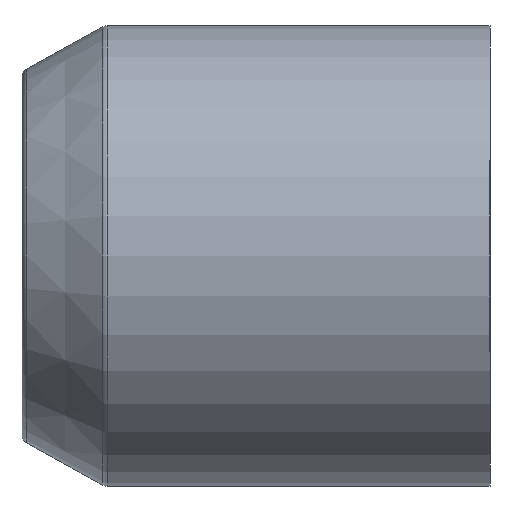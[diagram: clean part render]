
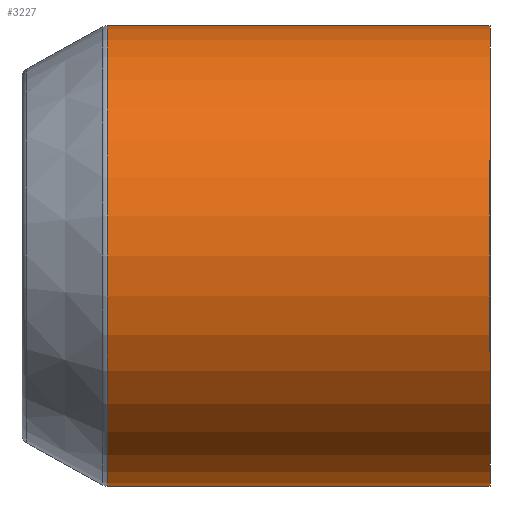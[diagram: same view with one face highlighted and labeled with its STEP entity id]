
A CAD part, left-side view. The second image highlights one B-rep face of the part: STEP entity #3227.
In plain terms, the highlighted cylindrical face has radius 12.5 mm (diameter 25 mm), a partial arc.
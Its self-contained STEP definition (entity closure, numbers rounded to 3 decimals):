
#135 = VERTEX_POINT ( 'NONE', #1918 ) ;
#146 = VERTEX_POINT ( 'NONE', #1980 ) ;
#189 = VERTEX_POINT ( 'NONE', #1928 ) ;
#221 = VERTEX_POINT ( 'NONE', #2002 ) ;
#310 = CARTESIAN_POINT ( 'NONE',  ( -6.15, 18.288, 0. ) ) ;
#312 = DIRECTION ( 'NONE',  ( 0., -1., 0. ) ) ;
#323 = DIRECTION ( 'NONE',  ( 0., 0., -1. ) ) ;
#786 = LINE ( 'NONE', #5045, #830 ) ;
#788 = VECTOR ( 'NONE', #5075, 1000. ) ;
#812 = CIRCLE ( 'NONE', #3637, 12.5 ) ;
#825 = LINE ( 'NONE', #5036, #788 ) ;
#830 = VECTOR ( 'NONE', #5077, 1000. ) ;
#835 = CIRCLE ( 'NONE', #3631, 12.5 ) ;
#1918 = CARTESIAN_POINT ( 'NONE',  ( -6.15, -7.112, -12.5 ) ) ;
#1928 = CARTESIAN_POINT ( 'NONE',  ( -6.15, -7.112, 12.5 ) ) ;
#1980 = CARTESIAN_POINT ( 'NONE',  ( -6.15, 13.658, 12.5 ) ) ;
#2002 = CARTESIAN_POINT ( 'NONE',  ( -6.15, 13.658, -12.5 ) ) ;
#2098 = CYLINDRICAL_SURFACE ( 'NONE', #3548, 12.5 ) ;
#2143 = FACE_OUTER_BOUND ( 'NONE', #3301, .T. ) ;
#2491 = ORIENTED_EDGE ( 'NONE', *, *, #3394, .F. ) ;
#2525 = ORIENTED_EDGE ( 'NONE', *, *, #3429, .T. ) ;
#2529 = ORIENTED_EDGE ( 'NONE', *, *, #3393, .T. ) ;
#2531 = ORIENTED_EDGE ( 'NONE', *, *, #3437, .T. ) ;
#3227 = ADVANCED_FACE ( 'NONE', ( #2143 ), #2098, .T. ) ;
#3301 = EDGE_LOOP ( 'NONE', ( #2491, #2531, #2529, #2525 ) ) ;
#3393 = EDGE_CURVE ( 'NONE', #221, #135, #786, .T. ) ;
#3394 = EDGE_CURVE ( 'NONE', #146, #189, #825, .T. ) ;
#3429 = EDGE_CURVE ( 'NONE', #135, #189, #812, .T. ) ;
#3437 = EDGE_CURVE ( 'NONE', #146, #221, #835, .T. ) ;
#3548 = AXIS2_PLACEMENT_3D ( 'NONE', #310, #312, #323 ) ;
#3631 = AXIS2_PLACEMENT_3D ( 'NONE', #5266, #5218, #5208 ) ;
#3637 = AXIS2_PLACEMENT_3D ( 'NONE', #5141, #5134, #5160 ) ;
#5036 = CARTESIAN_POINT ( 'NONE',  ( -6.15, 18.288, 12.5 ) ) ;
#5045 = CARTESIAN_POINT ( 'NONE',  ( -6.15, 18.288, -12.5 ) ) ;
#5075 = DIRECTION ( 'NONE',  ( 0., -1., 0. ) ) ;
#5077 = DIRECTION ( 'NONE',  ( 0., -1., 0. ) ) ;
#5134 = DIRECTION ( 'NONE',  ( 0., 1., 0. ) ) ;
#5141 = CARTESIAN_POINT ( 'NONE',  ( -6.15, -7.112, 0. ) ) ;
#5160 = DIRECTION ( 'NONE',  ( 0., 0., 1. ) ) ;
#5208 = DIRECTION ( 'NONE',  ( 0., 0., 1. ) ) ;
#5218 = DIRECTION ( 'NONE',  ( 0., -1., 0. ) ) ;
#5266 = CARTESIAN_POINT ( 'NONE',  ( -6.15, 13.658, 0. ) ) ;
